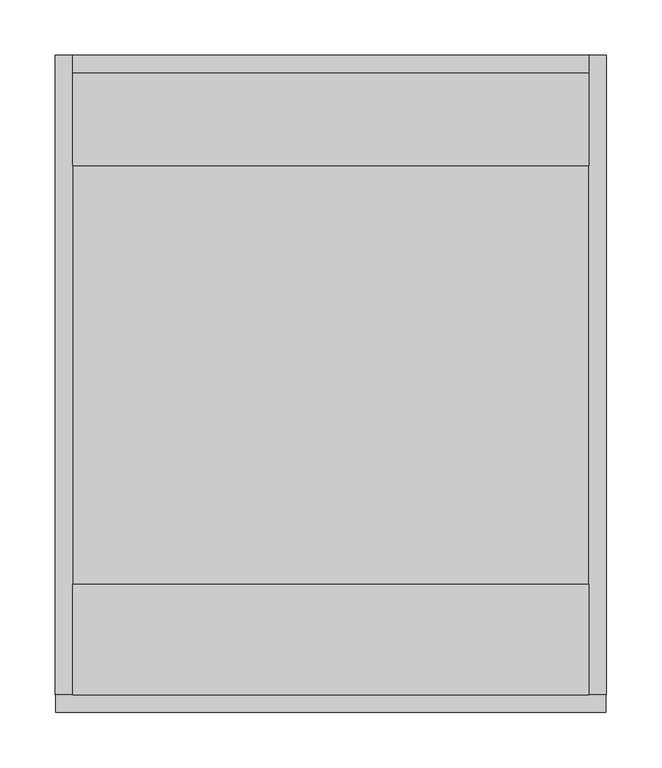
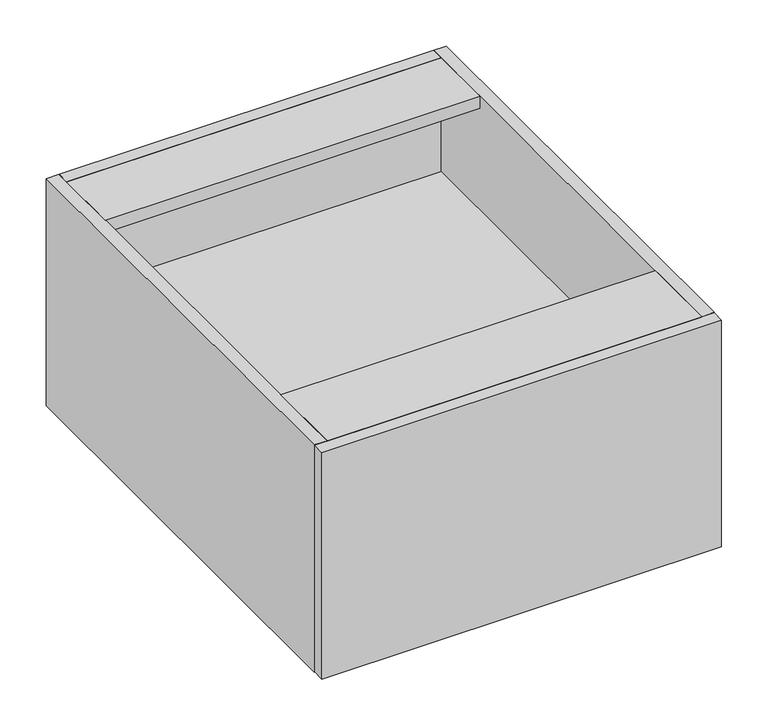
"""IFC4 building model written with IfcOpenShell, lengths in millimetres: furniture geometry, یونیت 1 در عمودی : یونیت 1 در عمودی."""

import ifcopenshell
import ifcopenshell.guid

model = None  # the IFC model being written
_history = None  # IfcOwnerHistory: only IFC2X3 demands one
_inside = {}  # id of a spatial element -> (the spatial element, [elements in it])
_under = {}  # id of a project, library or spatial element -> (it, [spatial elements below it])
_declared = {}  # id of a project -> (the project, [libraries it declares])
_typed = {}  # id of a type object -> (the type object, [elements of that type])
_made_of = {}  # id of a material, layer set ... -> (it, [elements and type objects made of it])


def new_model(schema):
    """Start an empty IFC model of exactly this schema.

    Asked for "IFC4X3", IfcOpenShell would pick the latest addendum, in which some entities
    have other attributes; the version numbers below select the first issue.
    IFC2X3 requires an IfcOwnerHistory on every rooted entity: one is made here for all.
    """
    global model, _history
    if schema == "IFC4X3":
        model = ifcopenshell.file(schema_version=(4, 3, 0, 0))
    else:
        model = ifcopenshell.file(schema=schema)
    _inside.clear()
    _under.clear()
    _declared.clear()
    _typed.clear()
    _made_of.clear()
    _history = None
    if model.schema == "IFC2X3":
        org = make("IfcOrganization", Name="unknown")
        user = make(
            "IfcPersonAndOrganization",
            ThePerson=make("IfcPerson", FamilyName="unknown"),
            TheOrganization=org,
        )
        app = make(
            "IfcApplication",
            ApplicationDeveloper=org,
            Version="unknown",
            ApplicationFullName="unknown",
            ApplicationIdentifier="unknown",
        )
        _history = make(
            "IfcOwnerHistory",
            OwningUser=user,
            OwningApplication=app,
            ChangeAction="ADDED",
            CreationDate=0,
        )
    return model


def make(cls, **values):
    """One entity of the class cls with the attributes given. An attribute that is None is left unset."""
    return model.create_entity(
        cls, **{name: value for name, value in values.items() if value is not None}
    )


def rooted(cls, **values):
    """An entity with a GlobalId (a new one), such as an element, a storey or a relation."""
    return make(cls, GlobalId=ifcopenshell.guid.new(), OwnerHistory=_history, **values)


def si_unit(unit_type, name, prefix=None):
    """IfcSIUnit, for example si_unit("LENGTHUNIT", "METRE", prefix="MILLI")."""
    return make("IfcSIUnit", UnitType=unit_type, Prefix=prefix, Name=name)


def assignment(units):
    """IfcUnitAssignment: the units of a project."""
    return None if units is None else make("IfcUnitAssignment", Units=units)


def point(xyz):
    """IfcCartesianPoint."""
    return None if xyz is None else make("IfcCartesianPoint", Coordinates=xyz)


def direction(xyz):
    """IfcDirection."""
    return None if xyz is None else make("IfcDirection", DirectionRatios=xyz)


def frame(location, z_axis=None, x_axis=None):
    """IfcAxis2Placement3D, a coordinate frame: its origin and axes. An axis left out is left unset."""
    return make(
        "IfcAxis2Placement3D",
        Location=point(location),
        Axis=direction(z_axis),
        RefDirection=direction(x_axis),
    )


def origin():
    """The frame at (0, 0, 0) with its axes left unset."""
    return frame((0.0, 0.0, 0.0))


def place(relative_to, where):
    """IfcLocalPlacement: puts the frame where relative to a parent placement (None: the world)."""
    return make(
        "IfcLocalPlacement", PlacementRelTo=relative_to, RelativePlacement=where
    )


def context(
    kind, dimensions, precision=None, world=None, true_north=None, identifier=None
):
    """IfcGeometricRepresentationContext, for example the 3D "Model" context."""
    return make(
        "IfcGeometricRepresentationContext",
        ContextIdentifier=identifier,
        ContextType=kind,
        CoordinateSpaceDimension=dimensions,
        Precision=precision,
        WorldCoordinateSystem=world,
        TrueNorth=true_north,
    )


def project(units=None, contexts=None):
    """IfcProject with its units and contexts."""
    return rooted(
        "IfcProject",
        Name="project",
        RepresentationContexts=contexts,
        UnitsInContext=assignment(units),
    )


def spatial(cls, under=None, at=None, **own):
    """A site, building, storey or space (cls), placed at a placement, below another one or the project."""
    s = rooted(cls, ObjectPlacement=at, **own)
    if under is not None:
        _under.setdefault(under.id(), (under, []))[1].append(s)
    return s


def polyline(points):
    """IfcPolyline through the points."""
    return make("IfcPolyline", Points=[point(p) for p in points])


def outline(outer, holes=None, kind="AREA"):
    """IfcArbitraryClosedProfileDef: a profile drawn as a closed curve; with holes, ...WithVoids."""
    if holes is None:
        return make("IfcArbitraryClosedProfileDef", ProfileType=kind, OuterCurve=outer)
    return make(
        "IfcArbitraryProfileDefWithVoids",
        ProfileType=kind,
        OuterCurve=outer,
        InnerCurves=holes,
    )


def extrude(swept, where, along, depth):
    """IfcExtrudedAreaSolid: the profile swept, set in the frame where, extruded along a direction by depth."""
    return make(
        "IfcExtrudedAreaSolid",
        SweptArea=swept,
        Position=where,
        ExtrudedDirection=direction(along),
        Depth=depth,
    )


def faces_of(points, faces, orient=None, outer=None):
    """IfcFace entities. A face is a list of loops; a loop is a list of indices into points, from 0.

    orient and outer hold one flag for each loop. By default every Orientation is true, the
    first loop of a face is its IfcFaceOuterBound and the others are IfcFaceBound.
    """
    made = []
    for i, loops in enumerate(faces):
        bounds = []
        for j, loop in enumerate(loops):
            is_outer = j == 0 if outer is None else outer[i][j]
            bounds.append(
                make(
                    "IfcFaceOuterBound" if is_outer else "IfcFaceBound",
                    Bound=make("IfcPolyLoop", Polygon=[points[k] for k in loop]),
                    Orientation=True if orient is None else orient[i][j],
                )
            )
        made.append(make("IfcFace", Bounds=bounds))
    return made


def faceted_brep(points, faces, orient=None, outer=None, voids=None):
    """IfcFacetedBrep: a solid bounded by flat faces; with voids (closed shells), ...WithVoids."""
    shared = [point(p) for p in points]
    hull = make("IfcClosedShell", CfsFaces=faces_of(shared, faces, orient, outer))
    if voids is None:
        return make("IfcFacetedBrep", Outer=hull)
    return make(
        "IfcFacetedBrepWithVoids",
        Outer=hull,
        Voids=[
            make(cls, CfsFaces=faces_of(shared, fs, o, b)) for cls, fs, o, b in voids
        ],
    )


def shape(context_of_items, identifier, shape_type, items):
    """IfcShapeRepresentation: the items that make up one representation, for example the "Body"."""
    return make(
        "IfcShapeRepresentation",
        ContextOfItems=context_of_items,
        RepresentationIdentifier=identifier,
        RepresentationType=shape_type,
        Items=items,
    )


def source(mapping_origin, context_of_items, identifier, shape_type, items):
    """IfcRepresentationMap: a shape defined once, which mapped items show again and again."""
    return make(
        "IfcRepresentationMap",
        MappingOrigin=mapping_origin,
        MappedRepresentation=shape(context_of_items, identifier, shape_type, items),
    )


def transform(
    local_origin,
    x_axis=None,
    y_axis=None,
    z_axis=None,
    scale=None,
    scale2=None,
    scale3=None,
    uniform=True,
):
    """IfcCartesianTransformationOperator3D, or its non-uniform kind. x_axis, y_axis, z_axis: its Axis1, 2, 3."""
    if uniform:
        return make(
            "IfcCartesianTransformationOperator3D",
            Axis1=direction(x_axis),
            Axis2=direction(y_axis),
            LocalOrigin=point(local_origin),
            Scale=scale,
            Axis3=direction(z_axis),
        )
    return make(
        "IfcCartesianTransformationOperator3DnonUniform",
        Axis1=direction(x_axis),
        Axis2=direction(y_axis),
        LocalOrigin=point(local_origin),
        Scale=scale,
        Axis3=direction(z_axis),
        Scale2=scale2,
        Scale3=scale3,
    )


def mapped(mapping_source, mapping_target):
    """IfcMappedItem: shows the shape of a source again, moved by a transform."""
    return make(
        "IfcMappedItem", MappingSource=mapping_source, MappingTarget=mapping_target
    )


def made_of(thing, what):
    """Note that an element or type object is made of a material, layer set ...; save() writes the relation."""
    if what is not None:
        _made_of.setdefault(what.id(), (what, []))[1].append(thing)
    return thing


def element(
    cls,
    number,
    at=None,
    inside=None,
    cuts=None,
    type_object=None,
    material=None,
    context=None,
    identifier="Body",
    shape_type=None,
    held_by="IfcProductDefinitionShape",
    body=None,
    shapes=None,
    **own,
):
    """One element of the class cls, such as IfcWall. Its Tag is "e" and its number.

    at: its placement. inside: the storey or other place that contains it. cuts: it is an
    opening in that element (IfcRelVoidsElement). A single representation is given by context,
    identifier, shape_type and body (its items); several are given by shapes. held_by: the class
    of the entity that holds the representations. save() writes the other relations.
    """
    e = rooted(cls, Tag="e%d" % number, ObjectPlacement=at, **own)
    if body is not None:
        shapes = [shape(context, identifier, shape_type, body)]
    if shapes is not None:
        e.Representation = make(held_by, Representations=shapes)
    if inside is not None:
        _inside.setdefault(inside.id(), (inside, []))[1].append(e)
    if cuts is not None:
        rooted(
            "IfcRelVoidsElement", RelatingBuildingElement=cuts, RelatedOpeningElement=e
        )
    if type_object is not None:
        _typed.setdefault(type_object.id(), (type_object, []))[1].append(e)
    return made_of(e, material)


def aggregate(whole, parts):
    """IfcRelAggregates: a whole, such as a stair, and the parts it consists of."""
    return rooted("IfcRelAggregates", RelatingObject=whole, RelatedObjects=parts)


def save(model, path):
    """Write the relations noted so far, then the file.

    IfcRelAggregates (storeys below a building ...), IfcRelContainedInSpatialStructure (elements
    in a storey), IfcRelDefinesByType, IfcRelAssociatesMaterial and IfcRelDeclares: one each for
    every whole, place, type object, material and project.
    """
    for whole, parts in _under.values():
        aggregate(whole, parts)
    for where, things in _inside.values():
        rooted(
            "IfcRelContainedInSpatialStructure",
            RelatedElements=things,
            RelatingStructure=where,
        )
    for kind, things in _typed.values():
        rooted("IfcRelDefinesByType", RelatedObjects=things, RelatingType=kind)
    for what, things in _made_of.values():
        rooted("IfcRelAssociatesMaterial", RelatedObjects=things, RelatingMaterial=what)
    for by, libraries in _declared.values():
        rooted("IfcRelDeclares", RelatingContext=by, RelatedDefinitions=libraries)
    model.write(path)


def furniture_8c2b42f5(model_context):
    return source(origin(), model_context, "Body", "SolidModel", [
        extrude(outline(polyline([(234.0, 0.0), (234.0, -16.0), (-234.0, -16.0), (-234.0, 0.0), (234.0, 0.0)])), frame((0.0, 0.0, 500.0), z_axis=(0.0, 0.0, 1.0), x_axis=(1.0, 0.0, 0.0)), (0.0, 0.0, 1.0), 300.0),
        extrude(outline(polyline([(234.0, -16.0), (234.0, -100.0), (-234.0, -100.0), (-234.0, -16.0), (234.0, -16.0)])), frame((0.0, 0.0, 784.0), z_axis=(0.0, 0.0, 1.0), x_axis=(1.0, 0.0, 0.0)), (0.0, 0.0, 1.0), 16.0),
        extrude(outline(polyline([(234.0, -480.0), (234.0, -580.0), (-234.0, -580.0), (-234.0, -480.0), (234.0, -480.0)])), frame((0.0, 0.0, 784.0), z_axis=(0.0, 0.0, 1.0), x_axis=(1.0, 0.0, 0.0)), (0.0, 0.0, 1.0), 16.0),
        extrude(outline(polyline([(234.0, -16.0), (234.0, -580.0), (-234.0, -580.0), (-234.0, -16.0), (234.0, -16.0)])), frame((0.0, 0.0, 500.0), z_axis=(0.0, 0.0, 1.0), x_axis=(1.0, 0.0, 0.0)), (0.0, 0.0, 1.0), 16.0),
        extrude(outline(polyline([(234.0, -16.0), (234.0, -480.0), (-234.0, -480.0), (-234.0, -16.0), (234.0, -16.0)])), frame((0.0, 0.0, 634.0), z_axis=(0.0, 0.0, 1.0), x_axis=(1.0, 0.0, 0.0)), (0.0, 0.0, 1.0), 16.0),
        extrude(outline(polyline([(249.6, -596.0), (-249.6, -596.0), (-249.6, -580.0), (249.6, -580.0), (249.6, -596.0)])), frame((0.0, 0.0, 500.4), z_axis=(0.0, 0.0, 1.0), x_axis=(1.0, 0.0, 0.0)), (0.0, 0.0, 1.0), 299.2),
        extrude(outline(polyline([(244.0, -488.0), (244.0, -500.0), (235.0, -500.0), (235.0, -499.0), (243.0, -499.0), (243.0, -489.0), (235.0, -489.0), (235.0, -488.0), (244.0, -488.0)])), frame((0.0, 0.0, 516.0), z_axis=(0.0, 0.0, 1.0), x_axis=(1.0, 0.0, 0.0)), (0.0, 0.0, 1.0), 268.0),
        extrude(outline(polyline([(-244.0, -488.0), (-235.0, -488.0), (-235.0, -489.0), (-243.0, -489.0), (-243.0, -499.0), (-235.0, -499.0), (-235.0, -500.0), (-244.0, -500.0), (-244.0, -488.0)])), frame((0.0, 0.0, 516.0), z_axis=(0.0, 0.0, 1.0), x_axis=(1.0, 0.0, 0.0)), (0.0, 0.0, 1.0), 268.0),
        extrude(outline(polyline([(235.0, -488.0), (235.0, -500.0), (234.0, -500.0), (234.0, -488.0), (235.0, -488.0)])), frame((0.0, 0.0, 516.0), z_axis=(0.0, 0.0, 1.0), x_axis=(1.0, 0.0, 0.0)), (0.0, 0.0, 1.0), 268.0),
        extrude(outline(polyline([(-235.0, -488.0), (-234.0, -488.0), (-234.0, -500.0), (-235.0, -500.0), (-235.0, -488.0)])), frame((0.0, 0.0, 516.0), z_axis=(0.0, 0.0, 1.0), x_axis=(1.0, 0.0, 0.0)), (0.0, 0.0, 1.0), 268.0),
        faceted_brep([(-234.0, 0.0, 800.0), (-250.0, 0.0, 800.0), (-250.0, -580.0, 800.0), (-234.0, -580.0, 800.0), (-234.0, 0.0, 500.0), (-234.0, -580.0, 500.0), (-250.0, -580.0, 500.0), (-250.0, 0.0, 500.0), (-234.0, -500.0, 784.0), (-234.0, -488.0, 784.0), (-234.0, -488.0, 516.0), (-234.0, -500.0, 516.0), (-244.0, -500.0, 784.0), (-244.0, -488.0, 784.0), (-244.0, -488.0, 516.0), (-244.0, -500.0, 516.0)], [[[0, 1, 2, 3]], [[4, 5, 6, 7]], [[1, 0, 4, 7]], [[2, 1, 7, 6]], [[3, 2, 6, 5]], [[0, 3, 5, 4], [8, 9, 10, 11]], [[8, 12, 13, 9]], [[10, 14, 15, 11]], [[9, 13, 14, 10]], [[13, 12, 15, 14]], [[12, 8, 11, 15]]]),
        faceted_brep([(234.0, 0.0, 800.0), (234.0, -580.0, 800.0), (250.0, -580.0, 800.0), (250.0, 0.0, 800.0), (234.0, 0.0, 500.0), (250.0, 0.0, 500.0), (250.0, -580.0, 500.0), (234.0, -580.0, 500.0), (234.0, -488.0, 784.0), (234.0, -500.0, 784.0), (234.0, -500.0, 516.0), (234.0, -488.0, 516.0), (244.0, -488.0, 784.0), (244.0, -500.0, 784.0), (244.0, -488.0, 516.0), (244.0, -500.0, 516.0)], [[[0, 1, 2, 3]], [[4, 5, 6, 7]], [[1, 0, 4, 7], [8, 9, 10, 11]], [[2, 1, 7, 6]], [[3, 2, 6, 5]], [[0, 3, 5, 4]], [[12, 13, 9, 8]], [[14, 11, 10, 15]], [[12, 8, 11, 14]], [[9, 13, 15, 10]], [[13, 12, 14, 15]]]),
    ])


if __name__ == "__main__":
    model = new_model("IFC4")
    model_context = context("Model", 3, world=origin())
    ifc_project = project(units=[si_unit("LENGTHUNIT", "METRE", prefix="MILLI")], contexts=[model_context])
    site = spatial("IfcSite", under=ifc_project)
    building = spatial("IfcBuilding", under=site)
    placement = place(None, origin())
    furniture_shape = furniture_8c2b42f5(model_context)
    element("IfcFurniture", 1, ObjectType="یونیت 1 در عمودی : یونیت 1 در عمودی", at=placement, inside=building, context=model_context, shape_type="MappedRepresentation", body=[
        mapped(furniture_shape, transform((0.0, 0.0, 0.0), x_axis=(1.0, 0.0, 0.0), y_axis=(0.0, 1.0, 0.0), z_axis=(0.0, 0.0, 1.0))),
    ])
    save(model, "model.ifc")
